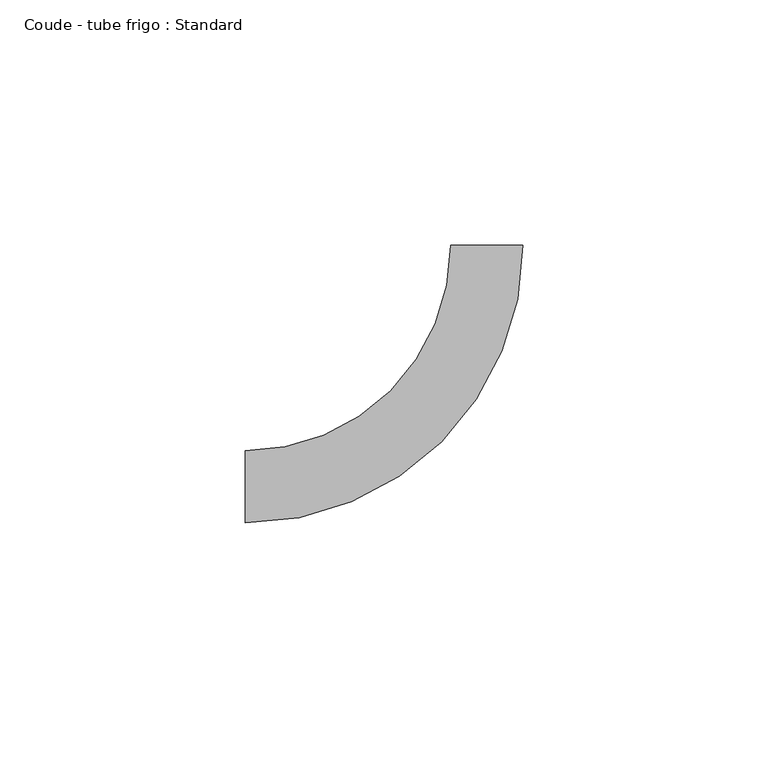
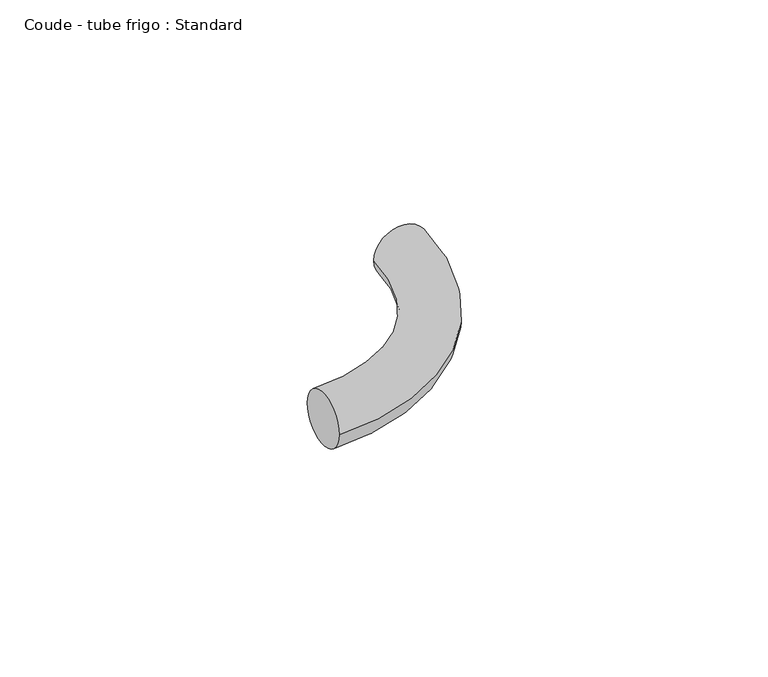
"""IFC4 building model written with IfcOpenShell, lengths in millimetres: pipe fitting geometry, Coude - tube frigo : Standard."""

from ifc_helpers import new_model, si_unit, point, frame, origin, place, context, project, spatial, circle_curve, ellipse_curve, trimmed, source, transform, mapped, element, save
from ifc_brep_helpers import plane_surface, revolved_surface, advanced_brep


def coude_tube_frigo_standard_d5c707ef(model_context):
    return source(origin(), model_context, "Body", "AdvancedBrep", [
        advanced_brep(
        [(-49.3, -7.35, 0.0), (-49.3, 7.35, 0.0), (7.35, 49.3, 0.0), (-7.35, 49.3, 0.0)],
        [
            (0, 1, circle_curve(frame((-49.3, 0.0, 0.0), z_axis=(-1.0, 0.0, 0.0), x_axis=(0.0, 1.0, 0.0)), 7.35)),
            (1, 0, circle_curve(frame((-49.3, 0.0, 0.0), z_axis=(-1.0, 0.0, 0.0), x_axis=(0.0, 1.0, 0.0)), 7.35)),
            (2, 3, circle_curve(frame((0.0, 49.3, 0.0), z_axis=(0.0, 1.0, 0.0), x_axis=(-1.0, 0.0, 0.0)), 7.35)),
            (3, 2, circle_curve(frame((0.0, 49.3, 0.0), z_axis=(0.0, 1.0, 0.0), x_axis=(-1.0, 0.0, 0.0)), 7.35)),
            (3, 1, circle_curve(frame((-49.3, 49.3, 0.0), z_axis=(0.0, 0.0, -1.0), x_axis=(0.0, -1.0, 0.0)), 41.95)),
            (0, 2, circle_curve(frame((-49.3, 49.3, 0.0), z_axis=(0.0, 0.0, 1.0), x_axis=(0.0, -1.0, 0.0)), 56.65)),
        ],
        [
            plane_surface(frame((-49.3, 0.0, 0.0), z_axis=(-1.0, 0.0, 0.0), x_axis=(0.0, 0.0, 1.0))),
            plane_surface(frame((0.0, 49.3, 0.0), z_axis=(0.0, 1.0, 0.0), x_axis=(0.0, 0.0, 1.0))),
            revolved_surface(trimmed(ellipse_curve(frame((-49.3, 0.0, 0.0), z_axis=(-1.0, 0.0, 0.0), x_axis=(0.0, 1.0, 0.0)), 7.35, 7.35), [point((-49.3, -7.35, 0.0))], [point((-49.3, 7.35, 0.0))], True, "CARTESIAN"), (-49.3, 49.3, 0.0), (0.0, 0.0, 1.0)),
            revolved_surface(trimmed(ellipse_curve(frame((-49.3, 0.0, 0.0), z_axis=(-1.0, 0.0, 0.0), x_axis=(0.0, 1.0, 0.0)), 7.35, 7.35), [point((-49.3, 7.35, 0.0))], [point((-49.3, -7.35, 0.0))], True, "CARTESIAN"), (-49.3, 49.3, 0.0), (0.0, 0.0, 1.0)),
        ],
        [
            (0, [[1, 2]]),
            (1, [[3, 4]]),
            (2, [[5, -1, 6, -4]]),
            (3, [[-6, -2, -5, -3]]),
        ],
    ),
    ])


if __name__ == "__main__":
    model = new_model("IFC4")
    model_context = context("Model", 3, world=origin())
    ifc_project = project(units=[si_unit("LENGTHUNIT", "METRE", prefix="MILLI")], contexts=[model_context])
    site = spatial("IfcSite", under=ifc_project)
    building = spatial("IfcBuilding", under=site)
    placement = place(None, origin())
    coude_tube_frigo_standard_shape = coude_tube_frigo_standard_d5c707ef(model_context)
    element("IfcPipeFitting", 1, ObjectType="Coude - tube frigo : Standard", at=placement, inside=building, context=model_context, shape_type="MappedRepresentation", body=[
        mapped(coude_tube_frigo_standard_shape, transform((0.0, 0.0, 0.0), x_axis=(1.0, 0.0, 0.0), y_axis=(0.0, 1.0, 0.0), z_axis=(0.0, 0.0, 1.0))),
    ])
    save(model, "model.ifc")
